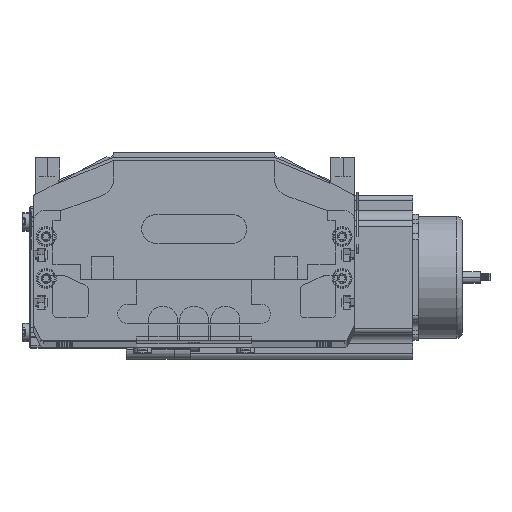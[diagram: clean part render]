
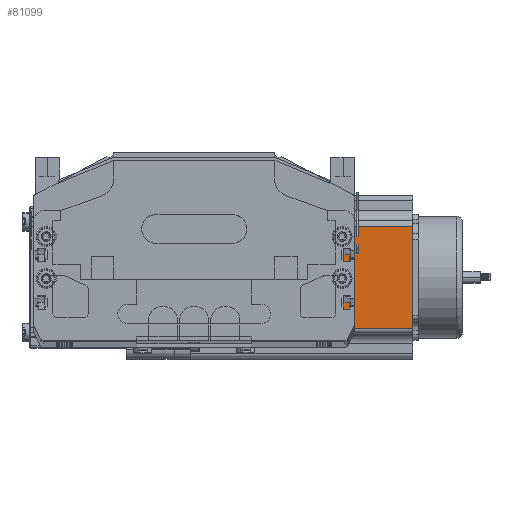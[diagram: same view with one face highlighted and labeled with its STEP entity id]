
A CAD part, top view. The second image highlights one B-rep face of the part: STEP entity #81099.
In plain terms, the highlighted planar face has unit normal (0, 0, 1) as drawn and (0, -1, 0) by its records, which use the part's own axes.
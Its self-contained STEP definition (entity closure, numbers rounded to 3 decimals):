
#2160 = FACE_OUTER_BOUND ( 'NONE', #81824, .T. ) ;
#2183 = CARTESIAN_POINT ( 'NONE',  ( 16.16, 0., 116.5 ) ) ;
#2224 = AXIS2_PLACEMENT_3D ( 'NONE', #2381, #2380, #2404 ) ;
#2246 = PLANE ( 'NONE',  #2224 ) ;
#2338 = CARTESIAN_POINT ( 'NONE',  ( 69.74, 0., 0. ) ) ;
#2380 = DIRECTION ( 'NONE',  ( 0., 1., 0. ) ) ;
#2381 = CARTESIAN_POINT ( 'NONE',  ( 0., 0., 116.5 ) ) ;
#2404 = DIRECTION ( 'NONE',  ( 0., 0., 1. ) ) ;
#21369 = CARTESIAN_POINT ( 'NONE',  ( 16.16, 0., 116.5 ) ) ;
#21409 = LINE ( 'NONE', #21369, #21826 ) ;
#21616 = LINE ( 'NONE', #21837, #21727 ) ;
#21727 = VECTOR ( 'NONE', #21825, 1000. ) ;
#21818 = DIRECTION ( 'NONE',  ( 0., 0., -1. ) ) ;
#21825 = DIRECTION ( 'NONE',  ( 0., 0., 1. ) ) ;
#21826 = VECTOR ( 'NONE', #21818, 1000. ) ;
#21837 = CARTESIAN_POINT ( 'NONE',  ( 69.74, 0., 116.5 ) ) ;
#46330 = DIRECTION ( 'NONE',  ( 1., 0., 0. ) ) ;
#46331 = VECTOR ( 'NONE', #46330, 1000. ) ;
#47335 = CARTESIAN_POINT ( 'NONE',  ( 0., 0., 0. ) ) ;
#47337 = LINE ( 'NONE', #47335, #46331 ) ;
#47464 = CARTESIAN_POINT ( 'NONE',  ( 16.16, 0., 0. ) ) ;
#47546 = CARTESIAN_POINT ( 'NONE',  ( 69.74, 0., 116.5 ) ) ;
#51883 = DIRECTION ( 'NONE',  ( 1., 0., 0. ) ) ;
#51884 = VECTOR ( 'NONE', #51883, 1000. ) ;
#51885 = CARTESIAN_POINT ( 'NONE',  ( 0., 0., 116.5 ) ) ;
#51886 = LINE ( 'NONE', #51885, #51884 ) ;
#81095 = VERTEX_POINT ( 'NONE', #2338 ) ;
#81097 = ORIENTED_EDGE ( 'NONE', *, *, #81680, .F. ) ;
#81099 = ADVANCED_FACE ( 'NONE', ( #2160 ), #2246, .F. ) ;
#81100 = ORIENTED_EDGE ( 'NONE', *, *, #81474, .T. ) ;
#81106 = VERTEX_POINT ( 'NONE', #2183 ) ;
#81452 = ORIENTED_EDGE ( 'NONE', *, *, #81469, .T. ) ;
#81469 = EDGE_CURVE ( 'NONE', #81106, #81577, #21409, .T. ) ;
#81472 = ORIENTED_EDGE ( 'NONE', *, *, #81572, .T. ) ;
#81474 = EDGE_CURVE ( 'NONE', #81095, #81549, #21616, .T. ) ;
#81549 = VERTEX_POINT ( 'NONE', #47546 ) ;
#81572 = EDGE_CURVE ( 'NONE', #81577, #81095, #47337, .T. ) ;
#81577 = VERTEX_POINT ( 'NONE', #47464 ) ;
#81680 = EDGE_CURVE ( 'NONE', #81106, #81549, #51886, .T. ) ;
#81824 = EDGE_LOOP ( 'NONE', ( #81472, #81100, #81097, #81452 ) ) ;
